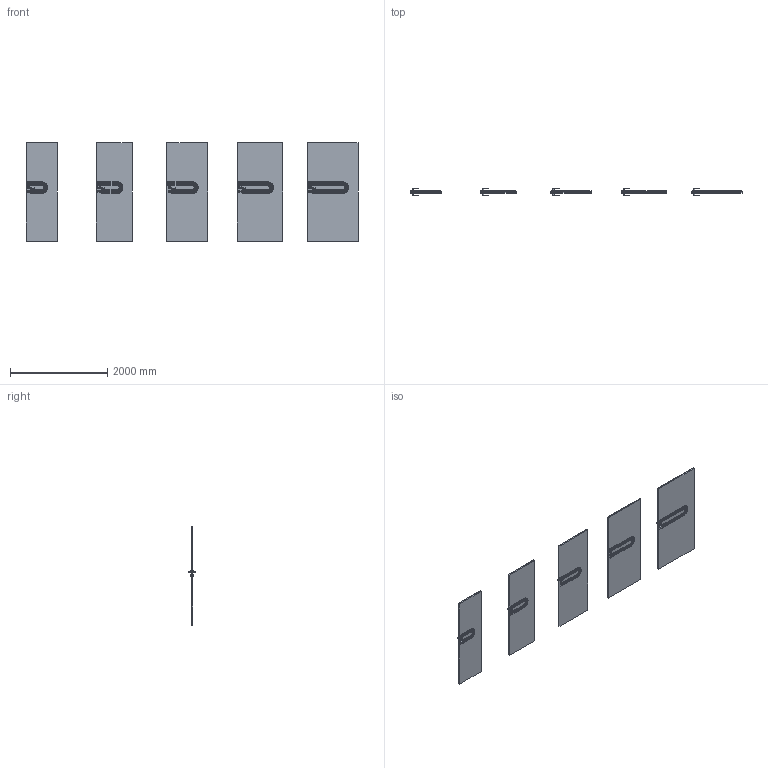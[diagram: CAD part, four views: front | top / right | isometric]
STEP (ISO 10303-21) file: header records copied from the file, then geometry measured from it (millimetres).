
FILE_DESCRIPTION(/* description */ (''),/* implementation_level */ '2;1');
FILE_NAME(/* name */ '049847_A_2-Skrzydło ART DECO model 4_ polska norma _PN__ odwrotna przylga..stp',/* time_stamp */ '2024-09-03T09:49:12+02:00',/* author */ (''),/* organization */ (''),/* preprocessor_version */ 'ST-DEVELOPER v16',/* originating_system */ 'SIEMENS PLM Software NX 11.0',/* authorisation */ '');
FILE_SCHEMA (('AUTOMOTIVE_DESIGN { 1 0 10303 214 3 1 1 1 }'));
Length unit declared in the file: millimetre
Products named in the file (1): bkni2A047F3F864v
Bounding box: 6839 x 153.13 x 2027 mm (x, y, z)
Volume: 331340949 mm3; surface area: 18425064.3 mm2
Topology: 25 solids, 25 shells, 1550 faces, 3700 edges, 2100 vertices
Faces by surface type: plane 520, cylinder 460, bspline 190, torus 150, sphere 140, cone 90
Entity records: 49469 total; most frequent: CARTESIAN_POINT 14681, DIRECTION 7422, ORIENTED_EDGE 7120, EDGE_CURVE 3560, AXIS2_PLACEMENT_3D 2801, VERTEX_POINT 2100, LINE 1820, VECTOR 1820
